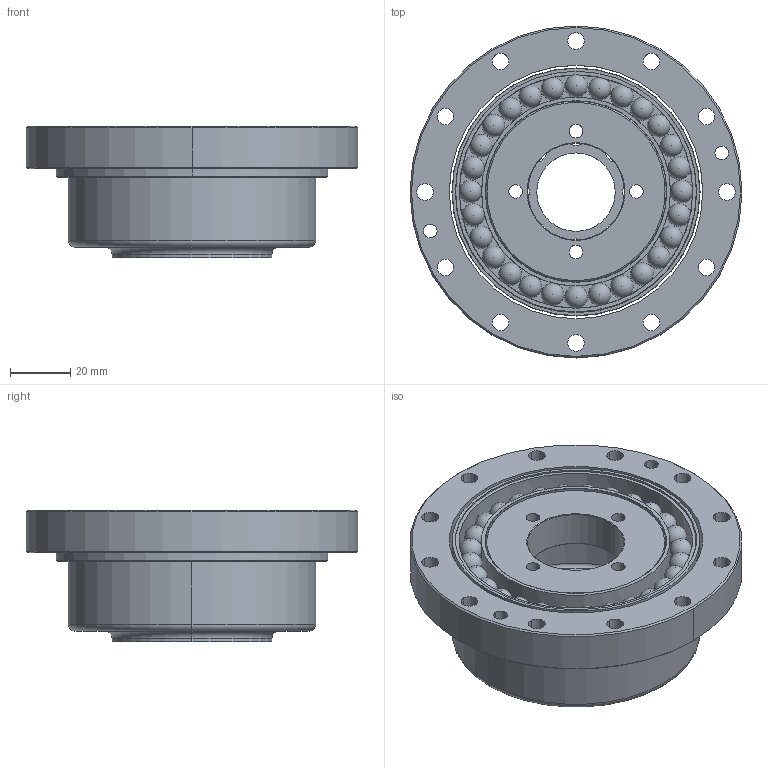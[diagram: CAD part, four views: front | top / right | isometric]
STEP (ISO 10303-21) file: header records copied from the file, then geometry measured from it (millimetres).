
FILE_DESCRIPTION (( 'STEP AP203' ), '1' );
FILE_NAME ('PGK 24-100.STEP', '2022-02-20T15:17:41', ( '' ), ( '' ), 'SwSTEP 2.0', 'SolidWorks 2018', '' );
FILE_SCHEMA (( 'CONFIG_CONTROL_DESIGN' ));
Length unit declared in the file: millimetre
Products named in the file (5): PGK24-100-80-04; PGK24-100-80-03; PGK24-100-80-01; PGK 24-100; PGK24-100-80-02
Assembly tree (4 placements, depth 2):
  PGK 24-100
    PGK24-100-80-03
    PGK24-100-80-04
    PGK24-100-80-01
    PGK24-100-80-02
Bounding box: 110 x 110 x 43.5 mm (x, y, z)
Volume: 108823.7 mm3; surface area: 75887.5 mm2
Topology: 4 solids, 4 shells, 185 faces, 716 edges, 486 vertices
Faces by surface type: cylinder 84, sphere 56, plane 15, torus 14, cone 10, bspline 6
Entity records: 11653 total; most frequent: CARTESIAN_POINT 5862, DIRECTION 1108, ORIENTED_EDGE 1104, EDGE_CURVE 552, AXIS2_PLACEMENT_3D 504, VERTEX_POINT 378, CIRCLE 318, EDGE_LOOP 308
